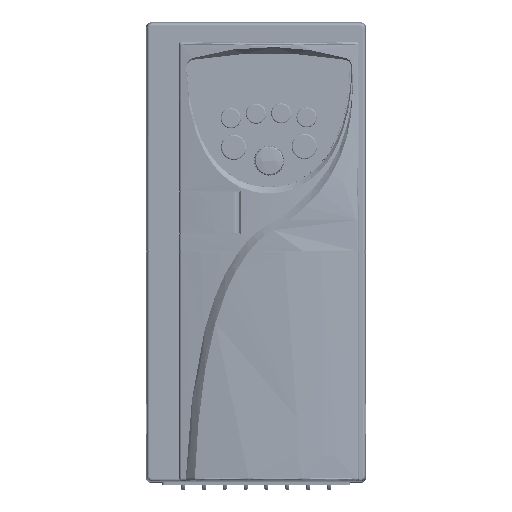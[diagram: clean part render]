
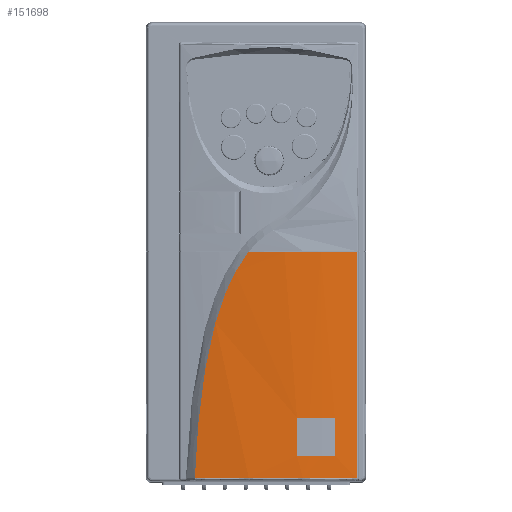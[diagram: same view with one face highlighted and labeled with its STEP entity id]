
A CAD part, top view. The second image highlights one B-rep face of the part: STEP entity #151698.
In plain terms, the highlighted cylindrical face has radius 220.5 mm (diameter 441 mm), a partial arc.
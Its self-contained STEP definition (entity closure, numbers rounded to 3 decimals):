
#5381 = VERTEX_POINT ( 'NONE', #194817 ) ;
#5962 = CARTESIAN_POINT ( 'NONE',  ( -24.199, 137.181, 89.381 ) ) ;
#9361 = DIRECTION ( 'NONE',  ( 0., 0., -1. ) ) ;
#10555 = VERTEX_POINT ( 'NONE', #131046 ) ;
#15241 = EDGE_LOOP ( 'NONE', ( #54295, #52412, #101906, #100453, #253679 ) ) ;
#18842 = B_SPLINE_CURVE_WITH_KNOTS ( 'NONE', 3,
 ( #54953, #272029, #150895, #125761, #221756, #294074 ),
 .UNSPECIFIED., .F., .F.,
 ( 4, 2, 4 ),
 ( 0., 0.5, 1. ),
 .UNSPECIFIED. ) ;
#19898 = DIRECTION ( 'NONE',  ( 0., 0., -1. ) ) ;
#20027 = VERTEX_POINT ( 'NONE', #106280 ) ;
#20788 = CARTESIAN_POINT ( 'NONE',  ( 16.2, 138.875, 80.5 ) ) ;
#25064 = CARTESIAN_POINT ( 'NONE',  ( -16.611, 138.069, 29.863 ) ) ;
#26603 = CARTESIAN_POINT ( 'NONE',  ( -22.326, 137.425, 62.281 ) ) ;
#27100 = VERTEX_POINT ( 'NONE', #219876 ) ;
#34090 = EDGE_CURVE ( 'NONE', #20027, #43963, #285421, .T. ) ;
#41403 = VERTEX_POINT ( 'NONE', #185084 ) ;
#43963 = VERTEX_POINT ( 'NONE', #107723 ) ;
#45539 = CARTESIAN_POINT ( 'NONE',  ( -7.417, 138.789, 6.427 ) ) ;
#47074 = CARTESIAN_POINT ( 'NONE',  ( -18.82, 137.838, 39.289 ) ) ;
#52412 = ORIENTED_EDGE ( 'NONE', *, *, #134910, .T. ) ;
#54074 = CARTESIAN_POINT ( 'NONE',  ( 31.2, 137.612, -113. ) ) ;
#54295 = ORIENTED_EDGE ( 'NONE', *, *, #237734, .F. ) ;
#54731 = FACE_OUTER_BOUND ( 'NONE', #15241, .T. ) ;
#54953 = CARTESIAN_POINT ( 'NONE',  ( -24.199, 137.181, 89.403 ) ) ;
#56284 = CARTESIAN_POINT ( 'NONE',  ( 5.2, -81.35, -113. ) ) ;
#56497 = CARTESIAN_POINT ( 'NONE',  ( -24.199, 137.181, 89.403 ) ) ;
#71969 = ORIENTED_EDGE ( 'NONE', *, *, #184647, .T. ) ;
#78327 = CYLINDRICAL_SURFACE ( 'NONE', #288735, 220.5 ) ;
#94242 = CARTESIAN_POINT ( 'NONE',  ( -19.198, 137.796, 41.187 ) ) ;
#100453 = ORIENTED_EDGE ( 'NONE', *, *, #183455, .T. ) ;
#100515 = CARTESIAN_POINT ( 'NONE',  ( -8.365, 138.733, 8.124 ) ) ;
#101906 = ORIENTED_EDGE ( 'NONE', *, *, #182654, .T. ) ;
#106280 = CARTESIAN_POINT ( 'NONE',  ( 31.2, 137.612, 65.5 ) ) ;
#107723 = CARTESIAN_POINT ( 'NONE',  ( 31.2, 137.612, 80.5 ) ) ;
#107740 = DIRECTION ( 'NONE',  ( 1., 0., 0. ) ) ;
#112371 = DIRECTION ( 'NONE',  ( 0., 0., 1. ) ) ;
#117483 = EDGE_LOOP ( 'NONE', ( #188927, #71969, #193594, #145626 ) ) ;
#121007 = CARTESIAN_POINT ( 'NONE',  ( -23.906, 137.221, 81.611 ) ) ;
#124287 = CARTESIAN_POINT ( 'NONE',  ( 39.837, 136.412, -113. ) ) ;
#125732 = CIRCLE ( 'NONE', #286516, 220.5 ) ;
#125761 = CARTESIAN_POINT ( 'NONE',  ( 18.549, 139.006, 89.339 ) ) ;
#130891 = DIRECTION ( 'NONE',  ( 1., 0., 0. ) ) ;
#131046 = CARTESIAN_POINT ( 'NONE',  ( 39.837, 136.412, 0. ) ) ;
#134910 = EDGE_CURVE ( 'NONE', #270475, #27100, #18842, .T. ) ;
#144549 = VECTOR ( 'NONE', #272689, 1000. ) ;
#145626 = ORIENTED_EDGE ( 'NONE', *, *, #255015, .T. ) ;
#150895 = CARTESIAN_POINT ( 'NONE',  ( -2.872, 139.262, 89.33 ) ) ;
#151698 = ADVANCED_FACE ( 'NONE', ( #54731, #199434 ), #78327, .T. ) ;
#152181 = CARTESIAN_POINT ( 'NONE',  ( -24.199, 137.181, 89.403 ) ) ;
#152908 = DIRECTION ( 'NONE',  ( 0., 0., 1. ) ) ;
#163021 = CARTESIAN_POINT ( 'NONE',  ( 16.2, 138.875, -113. ) ) ;
#163920 = DIRECTION ( 'NONE',  ( 0., 0., -1. ) ) ;
#165994 = EDGE_CURVE ( 'NONE', #279495, #5381, #211825, .T. ) ;
#166615 = CARTESIAN_POINT ( 'NONE',  ( -16.104, 138.119, 27.991 ) ) ;
#171302 = CARTESIAN_POINT ( 'NONE',  ( -4.273, 138.95, 1.526 ) ) ;
#182654 = EDGE_CURVE ( 'NONE', #27100, #10555, #291085, .T. ) ;
#183455 = EDGE_CURVE ( 'NONE', #10555, #303195, #125732, .T. ) ;
#184130 = AXIS2_PLACEMENT_3D ( 'NONE', #234755, #163920, #256786 ) ;
#184647 = EDGE_CURVE ( 'NONE', #43963, #279495, #311334, .T. ) ;
#185084 = CARTESIAN_POINT ( 'NONE',  ( -24.198, 137.181, 89.37 ) ) ;
#187113 = B_SPLINE_CURVE_WITH_KNOTS ( 'NONE', 3,
 ( #292432, #171302, #311368, #289313, #45539, #100515, #260997, #240569, #213819, #309781, #286190, #166615, #25064, #262575, #193330, #47074, #94242, #190213, #265703, #194884, #26603, #243662, #121007, #290860 ),
 .UNSPECIFIED., .F., .F.,
 ( 4, 2, 2, 2, 2, 2, 2, 2, 2, 2, 2, 4 ),
 ( 0., 0.006, 0.009, 0.012, 0.023, 0.029, 0.035, 0.041, 0.047, 0.058, 0.07, 0.093 ),
 .UNSPECIFIED. ) ;
#188927 = ORIENTED_EDGE ( 'NONE', *, *, #34090, .T. ) ;
#190213 = CARTESIAN_POINT ( 'NONE',  ( -20.255, 137.677, 46.899 ) ) ;
#193330 = CARTESIAN_POINT ( 'NONE',  ( -18.003, 137.926, 35.504 ) ) ;
#193594 = ORIENTED_EDGE ( 'NONE', *, *, #165994, .T. ) ;
#194328 = CIRCLE ( 'NONE', #184130, 220.5 ) ;
#194817 = CARTESIAN_POINT ( 'NONE',  ( 16.2, 138.875, 65.5 ) ) ;
#194884 = CARTESIAN_POINT ( 'NONE',  ( -21.891, 137.48, 58.423 ) ) ;
#199434 = FACE_BOUND ( 'NONE', #117483, .T. ) ;
#203237 = CARTESIAN_POINT ( 'NONE',  ( 5.2, -81.35, 0. ) ) ;
#209677 = CARTESIAN_POINT ( 'NONE',  ( -3.058, 138.995, 0. ) ) ;
#211825 = LINE ( 'NONE', #163021, #217467 ) ;
#213819 = CARTESIAN_POINT ( 'NONE',  ( -12.482, 138.443, 16.916 ) ) ;
#217467 = VECTOR ( 'NONE', #19898, 1000. ) ;
#218416 = CARTESIAN_POINT ( 'NONE',  ( -24.198, 137.181, 89.37 ) ) ;
#219876 = CARTESIAN_POINT ( 'NONE',  ( 39.837, 136.412, 89.429 ) ) ;
#219960 = DIRECTION ( 'NONE',  ( 0., 0., 1. ) ) ;
#221756 = CARTESIAN_POINT ( 'NONE',  ( 29.253, 138.096, 89.371 ) ) ;
#234755 = CARTESIAN_POINT ( 'NONE',  ( 5.2, -81.35, 65.5 ) ) ;
#237734 = EDGE_CURVE ( 'NONE', #270475, #41403, #277743, .T. ) ;
#240569 = CARTESIAN_POINT ( 'NONE',  ( -11.013, 138.56, 13.327 ) ) ;
#243662 = CARTESIAN_POINT ( 'NONE',  ( -23.432, 137.284, 73.866 ) ) ;
#252417 = CARTESIAN_POINT ( 'NONE',  ( 5.2, -81.35, 80.5 ) ) ;
#253679 = ORIENTED_EDGE ( 'NONE', *, *, #275254, .T. ) ;
#255015 = EDGE_CURVE ( 'NONE', #5381, #20027, #194328, .T. ) ;
#256786 = DIRECTION ( 'NONE',  ( 1., 0., 0. ) ) ;
#260997 = CARTESIAN_POINT ( 'NONE',  ( -8.822, 138.704, 8.985 ) ) ;
#262575 = CARTESIAN_POINT ( 'NONE',  ( -17.561, 137.972, 33.619 ) ) ;
#265703 = CARTESIAN_POINT ( 'NONE',  ( -20.855, 137.606, 50.729 ) ) ;
#268682 = CARTESIAN_POINT ( 'NONE',  ( -24.199, 137.181, 89.392 ) ) ;
#270475 = VERTEX_POINT ( 'NONE', #56497 ) ;
#271257 = VECTOR ( 'NONE', #9361, 1000. ) ;
#272029 = CARTESIAN_POINT ( 'NONE',  ( -13.589, 138.609, 89.353 ) ) ;
#272689 = DIRECTION ( 'NONE',  ( 0., 0., 1. ) ) ;
#273343 = DIRECTION ( 'NONE',  ( 1., 0., 0. ) ) ;
#275254 = EDGE_CURVE ( 'NONE', #303195, #41403, #187113, .T. ) ;
#277743 = B_SPLINE_CURVE_WITH_KNOTS ( 'NONE', 3,
 ( #152181, #268682, #5962, #218416 ),
 .UNSPECIFIED., .F., .F.,
 ( 4, 4 ),
 ( 0., 0. ),
 .UNSPECIFIED. ) ;
#279495 = VERTEX_POINT ( 'NONE', #20788 ) ;
#285421 = LINE ( 'NONE', #54074, #144549 ) ;
#286190 = CARTESIAN_POINT ( 'NONE',  ( -15.002, 138.223, 24.266 ) ) ;
#286516 = AXIS2_PLACEMENT_3D ( 'NONE', #203237, #152908, #130891 ) ;
#288735 = AXIS2_PLACEMENT_3D ( 'NONE', #56284, #219960, #273343 ) ;
#289313 = CARTESIAN_POINT ( 'NONE',  ( -6.923, 138.817, 5.59 ) ) ;
#290860 = CARTESIAN_POINT ( 'NONE',  ( -24.198, 137.181, 89.37 ) ) ;
#291085 = LINE ( 'NONE', #124287, #271257 ) ;
#292432 = CARTESIAN_POINT ( 'NONE',  ( -3.058, 138.995, 0. ) ) ;
#294074 = CARTESIAN_POINT ( 'NONE',  ( 39.837, 136.412, 89.429 ) ) ;
#296286 = AXIS2_PLACEMENT_3D ( 'NONE', #252417, #112371, #107740 ) ;
#303195 = VERTEX_POINT ( 'NONE', #209677 ) ;
#309781 = CARTESIAN_POINT ( 'NONE',  ( -14.406, 138.277, 22.413 ) ) ;
#311334 = CIRCLE ( 'NONE', #296286, 220.5 ) ;
#311368 = CARTESIAN_POINT ( 'NONE',  ( -5.382, 138.898, 3.121 ) ) ;
